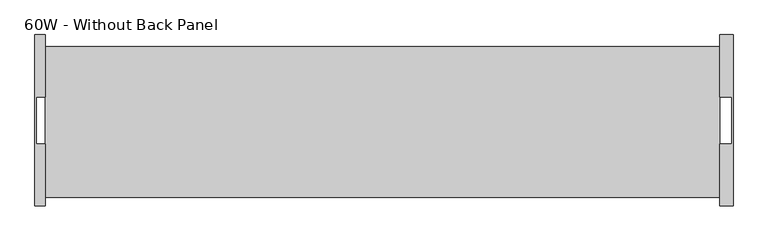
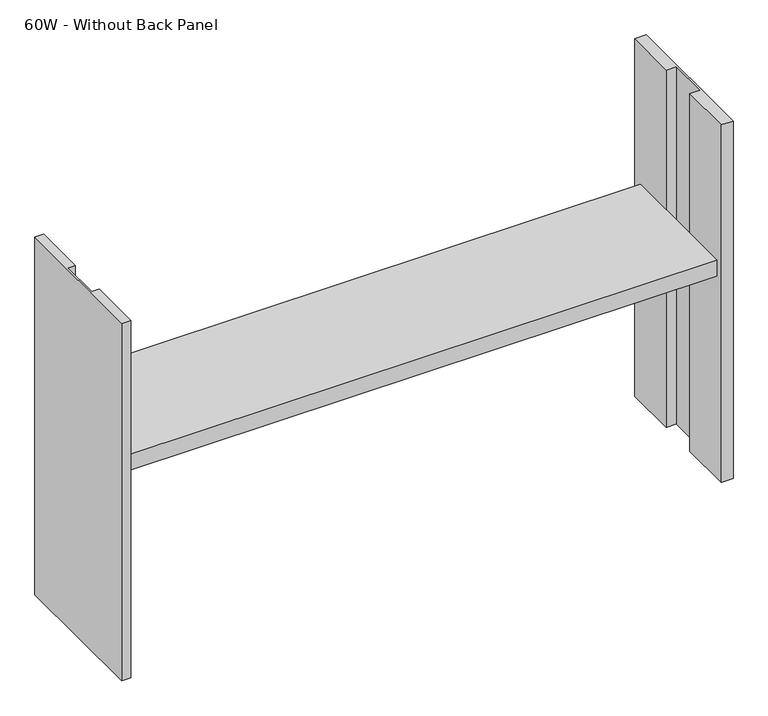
"""IFC4 building model written with IfcOpenShell, lengths in millimetres: furniture geometry, Steelcase - Kick Freestanding - Overhead Storage Cabinet With Shelves : 60W - Without Back Panel."""

from ifc_helpers import new_model, si_unit, frame, origin, place, context, project, spatial, polyline, outline, extrude, source, transform, mapped, element, save


def furniture_60w_without_back_panel_3a9a2143(model_context):
    return source(origin(), model_context, "Body", "SweptSolid", [
        extrude(outline(polyline([(1482.5138992, -53.9750008), (1482.5138992, -377.8257956), (34.7138992, -377.8257956), (34.7138992, -53.9750008), (1482.5138992, -53.9750008)])), frame((0.0, 0.0, 1018.9431215), z_axis=(0.0, 0.0, 1.0), x_axis=(1.0, 0.0, 0.0)), (0.0, 0.0, 1.0), 41.2749516),
        extrude(outline(polyline([(1482.5138992, -28.575), (1511.3, -28.575), (1511.3, -396.875), (1482.5138992, -396.875), (1482.5138992, -263.5265924), (1508.123793, -263.5265924), (1508.123793, -161.9265984), (1482.5138992, -161.9265984), (1482.5138992, -28.575)])), frame((0.0, 0.0, 495.068073), z_axis=(0.0, 0.0, 1.0), x_axis=(1.0, 0.0, 0.0)), (0.0, 0.0, 1.0), 927.1),
        extrude(outline(polyline([(34.7138992, -28.575), (34.7138992, -161.9250023), (15.8750004, -161.9250023), (15.8750004, -263.5249962), (34.7138992, -263.5249962), (34.7138992, -396.875), (12.7, -396.875), (12.7, -28.575), (34.7138992, -28.575)])), frame((0.0, 0.0, 495.068073), z_axis=(0.0, 0.0, 1.0), x_axis=(1.0, 0.0, 0.0)), (0.0, 0.0, 1.0), 927.1),
    ])


if __name__ == "__main__":
    model = new_model("IFC4")
    model_context = context("Model", 3, world=origin())
    ifc_project = project(units=[si_unit("LENGTHUNIT", "METRE", prefix="MILLI")], contexts=[model_context])
    site = spatial("IfcSite", under=ifc_project)
    building = spatial("IfcBuilding", under=site)
    placement = place(None, origin())
    furniture_60w_without_back_panel_shape = furniture_60w_without_back_panel_3a9a2143(model_context)
    element("IfcFurniture", 1, ObjectType="Steelcase - Kick Freestanding - Overhead Storage Cabinet With Shelves : 60W - Without Back Panel", at=placement, inside=building, context=model_context, shape_type="MappedRepresentation", body=[
        mapped(furniture_60w_without_back_panel_shape, transform((0.0, 0.0, 0.0), x_axis=(1.0, 0.0, 0.0), y_axis=(0.0, 1.0, 0.0), z_axis=(0.0, 0.0, 1.0))),
    ])
    save(model, "model.ifc")
